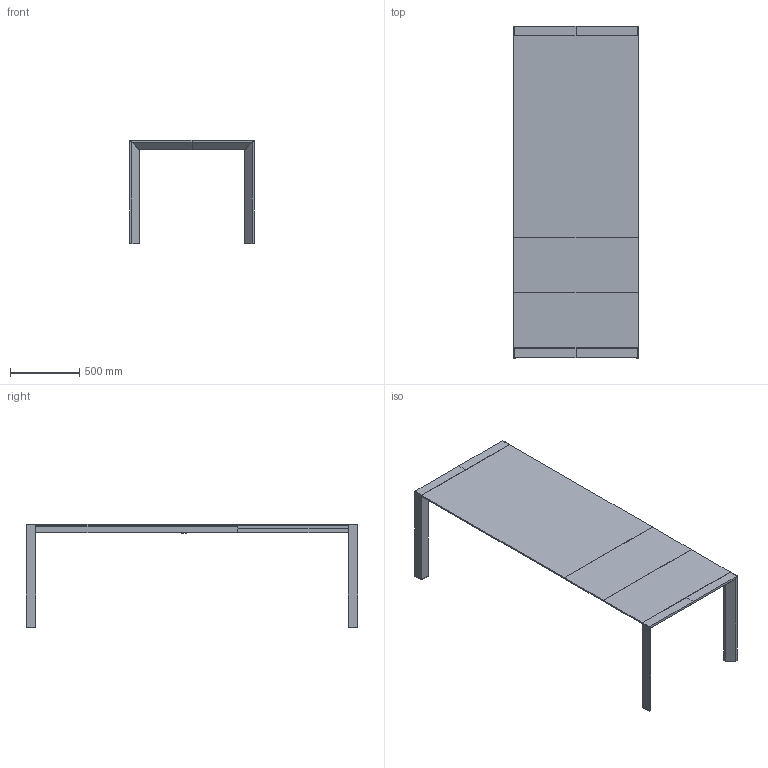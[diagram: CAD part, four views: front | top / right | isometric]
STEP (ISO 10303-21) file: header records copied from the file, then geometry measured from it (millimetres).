
FILE_DESCRIPTION(/* description */ (''),/* implementation_level */ '2;1');
FILE_NAME(/* name */ '10668 - Afill 160+80x90',/* time_stamp */ '2010-11-03T15:12:58+01:00',/* author */ (''),/* organization */ (''),/* preprocessor_version */ 'ST-DEVELOPER v10',/* originating_system */ '',/* authorisation */ '');
FILE_SCHEMA (('CONFIG_CONTROL_DESIGN'));
Length unit declared in the file: centimetre
Products named in the file (1): 1
Bounding box: 902.24 x 2400.6 x 751.1 mm (x, y, z)
Volume: 46269639.8 mm3; surface area: 6668003.2 mm2
Topology: 14 solids, 14 shells, 166 faces, 380 edges, 250 vertices
Faces by surface type: plane 166
Entity records: 4198 total; most frequent: CARTESIAN_POINT 1298, ORIENTED_EDGE 760, EDGE_CURVE 380, B_SPLINE_CURVE_WITH_KNOTS 380, VERTEX_POINT 250, EDGE_LOOP 174, DIRECTION 170, AXIS2_PLACEMENT_3D 168
